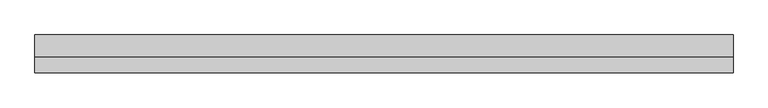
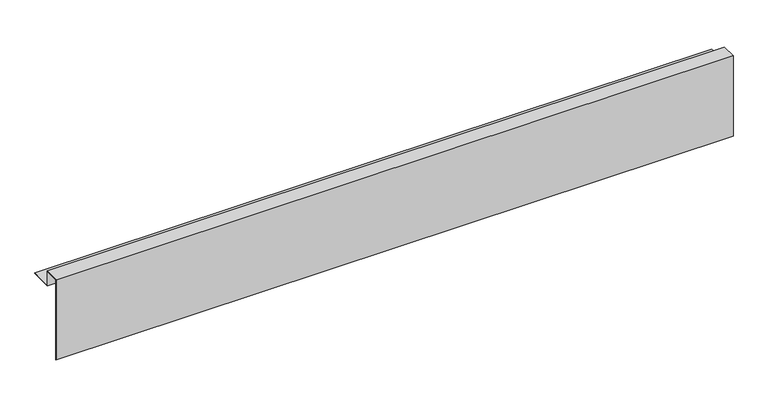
"""IFC4 building model written with IfcOpenShell, lengths in millimetres: proxy geometry, Боковой откос_прямой : Боковой откос_прямой."""

from ifc_helpers import new_model, si_unit, frame, origin, place, context, project, spatial, polyline, outline, extrude, source, transform, mapped, element, save


def generic_models_d4227f03(model_context):
    return source(origin(), model_context, "Body", "SweptSolid", [
        extrude(outline(polyline([(-1.0, -19.2), (69.0, -19.2), (69.0, -20.0), (-1.8, -20.0), (-1.8, 29.2), (-50.2, 29.2), (-50.2, -247.0), (-51.0, -247.0), (-51.0, 30.0), (-1.0, 30.0), (-1.0, -19.2)])), frame((0.0, 0.0, 0.0), z_axis=(1.0, 0.0, 0.0), x_axis=(0.0, 1.0, 0.0)), (0.0, 0.0, 1.0), 2210.0),
    ])


if __name__ == "__main__":
    model = new_model("IFC4")
    model_context = context("Model", 3, world=origin())
    ifc_project = project(units=[si_unit("LENGTHUNIT", "METRE", prefix="MILLI")], contexts=[model_context])
    site = spatial("IfcSite", under=ifc_project)
    building = spatial("IfcBuilding", under=site)
    placement = place(None, origin())
    generic_models_shape = generic_models_d4227f03(model_context)
    element("IfcBuildingElementProxy", 1, Name="Боковой откос_прямой : Боковой откос_прямой", ObjectType="Боковой откос_прямой : Боковой откос_прямой", at=placement, inside=building, context=model_context, shape_type="MappedRepresentation", body=[
        mapped(generic_models_shape, transform((0.0, 0.0, 0.0), x_axis=(1.0, 0.0, 0.0), y_axis=(0.0, 1.0, 0.0), z_axis=(0.0, 0.0, 1.0))),
    ])
    save(model, "model.ifc")
